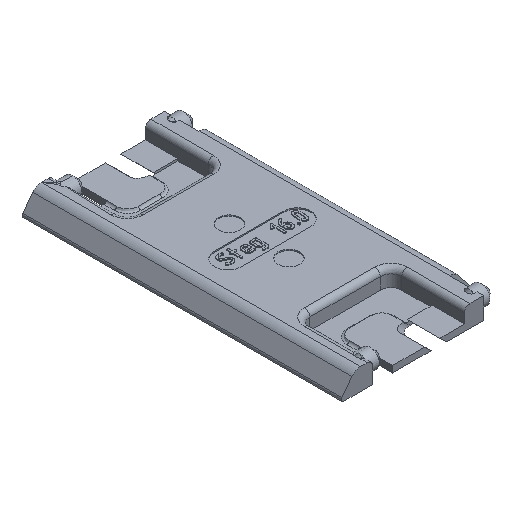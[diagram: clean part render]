
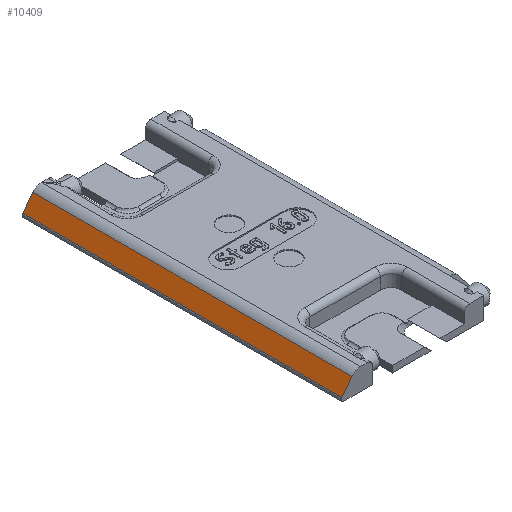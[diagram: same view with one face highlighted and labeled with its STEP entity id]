
A CAD part, isometric view. The second image highlights one B-rep face of the part: STEP entity #10409.
In plain terms, the highlighted planar face has unit normal (-0.787, 0, 0.617).
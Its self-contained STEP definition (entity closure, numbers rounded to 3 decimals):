
#49=CARTESIAN_POINT('',(96.259,63.5,34.105));
#50=VERTEX_POINT('',#49);
#68=CARTESIAN_POINT('',(96.259,4.5,34.105));
#69=VERTEX_POINT('',#68);
#77=CARTESIAN_POINT('',(96.259,63.5,34.105));
#78=DIRECTION('',(0.0,-1.0,0.0));
#79=VECTOR('',#78,59.);
#80=LINE('',#77,#79);
#81=EDGE_CURVE('',#50,#69,#80,.T.);
#93=CARTESIAN_POINT('',(98.162,63.5,36.531));
#94=VERTEX_POINT('',#93);
#102=CARTESIAN_POINT('',(98.162,4.5,36.531));
#103=VERTEX_POINT('',#102);
#104=CARTESIAN_POINT('',(98.162,4.5,36.531));
#105=DIRECTION('',(0.0,1.0,0.0));
#106=VECTOR('',#105,59.);
#107=LINE('',#104,#106);
#108=EDGE_CURVE('',#103,#94,#107,.T.);
#8558=CARTESIAN_POINT('',(98.162,4.5,36.531));
#8559=DIRECTION('',(-0.617,0.0,-0.787));
#8560=VECTOR('',#8559,3.083);
#8561=LINE('',#8558,#8560);
#8562=EDGE_CURVE('',#103,#69,#8561,.T.);
#10387=CARTESIAN_POINT('',(98.162,63.5,36.531));
#10388=DIRECTION('',(-0.617,0.,-0.787));
#10389=VECTOR('',#10388,3.083);
#10390=LINE('',#10387,#10389);
#10391=EDGE_CURVE('',#94,#50,#10390,.T.);
#10398=CARTESIAN_POINT('',(96.164,1.55,33.984));
#10399=DIRECTION('',(-0.787,0.,0.617));
#10400=DIRECTION('',(0.617,0.0,0.787));
#10401=AXIS2_PLACEMENT_3D('',#10398,#10399,#10400);
#10402=PLANE('',#10401);
#10403=ORIENTED_EDGE('',*,*,#108,.T.);
#10404=ORIENTED_EDGE('',*,*,#10391,.T.);
#10405=ORIENTED_EDGE('',*,*,#81,.T.);
#10406=ORIENTED_EDGE('',*,*,#8562,.F.);
#10407=EDGE_LOOP('',(#10403,#10404,#10405,#10406));
#10408=FACE_OUTER_BOUND('',#10407,.T.);
#10409=ADVANCED_FACE('',(#10408),#10402,.T.);
